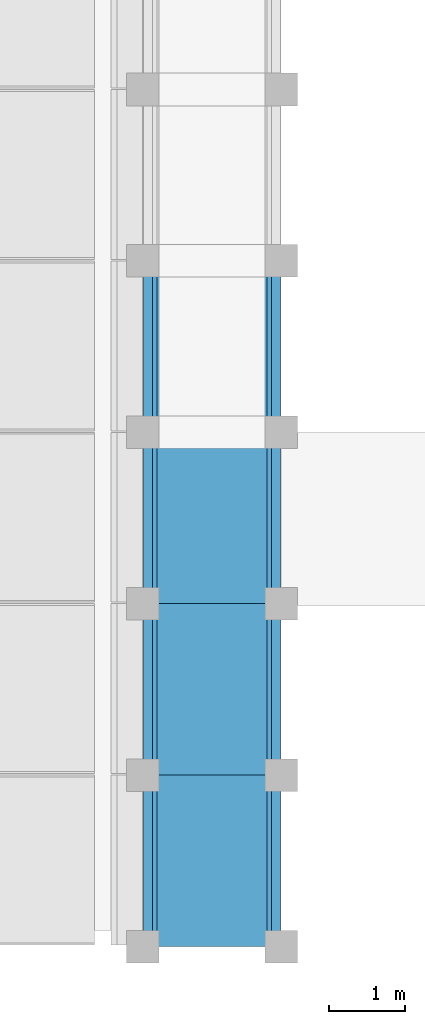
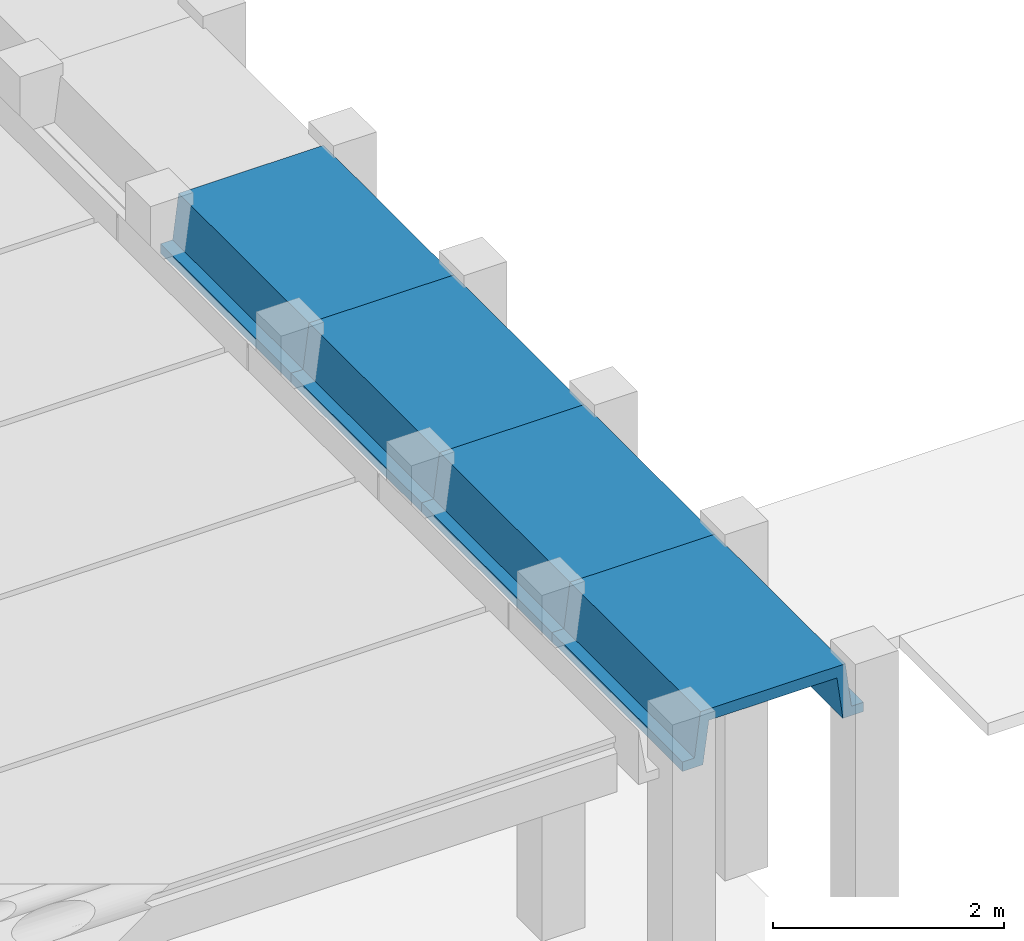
# One storey, part 3 of 18: 4 beams.
"""IFC2X3 building model written with IfcOpenShell, lengths in millimetres."""

from ifc_helpers import new_model, entity, si_unit, converted_unit, derived_unit, direction, frame, origin, place, context, subcontext, project, spatial, polyline, outline, extrude, material, type_object, element, save


model = new_model("IFC2X3")

# Units and contexts
model_context = context("Model", 3, precision=0.01, world=origin(), true_north=direction((6.12303176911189e-17, 1.0)))
body_context = subcontext(model_context, "Body", "Model", "MODEL_VIEW")
ifc_project = project(units=[si_unit("LENGTHUNIT", "METRE", prefix="MILLI"), si_unit("AREAUNIT", "SQUARE_METRE"), si_unit("VOLUMEUNIT", "CUBIC_METRE"), converted_unit("PLANEANGLEUNIT", "DEGREE", entity("IfcRatioMeasure", 0.0174532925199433), si_unit("PLANEANGLEUNIT", "RADIAN"), dimensions=[0, 0, 0, 0, 0, 0, 0]), si_unit("MASSUNIT", "GRAM", prefix="KILO"), derived_unit("MASSDENSITYUNIT", [(si_unit("MASSUNIT", "GRAM", prefix="KILO"), 1), (si_unit("LENGTHUNIT", "METRE"), -3)]), derived_unit("MOMENTOFINERTIAUNIT", [(si_unit("LENGTHUNIT", "METRE"), 4)]), si_unit("TIMEUNIT", "SECOND"), si_unit("FREQUENCYUNIT", "HERTZ"), si_unit("THERMODYNAMICTEMPERATUREUNIT", "DEGREE_CELSIUS"), derived_unit("THERMALTRANSMITTANCEUNIT", [(si_unit("MASSUNIT", "GRAM", prefix="KILO"), 1), (si_unit("THERMODYNAMICTEMPERATUREUNIT", "KELVIN"), -1), (si_unit("TIMEUNIT", "SECOND"), -3)]), derived_unit("VOLUMETRICFLOWRATEUNIT", [(si_unit("LENGTHUNIT", "METRE"), 3), (si_unit("TIMEUNIT", "SECOND"), -1)]), si_unit("ELECTRICCURRENTUNIT", "AMPERE"), si_unit("ELECTRICVOLTAGEUNIT", "VOLT"), si_unit("POWERUNIT", "WATT"), si_unit("FORCEUNIT", "NEWTON", prefix="KILO"), si_unit("ILLUMINANCEUNIT", "LUX"), si_unit("LUMINOUSFLUXUNIT", "LUMEN"), si_unit("LUMINOUSINTENSITYUNIT", "CANDELA"), derived_unit("USERDEFINED", [(si_unit("MASSUNIT", "GRAM", prefix="KILO"), -1), (si_unit("LENGTHUNIT", "METRE"), -2), (si_unit("TIMEUNIT", "SECOND"), 3), (si_unit("LUMINOUSFLUXUNIT", "LUMEN"), 1)]), derived_unit("LINEARVELOCITYUNIT", [(si_unit("LENGTHUNIT", "METRE"), 1), (si_unit("TIMEUNIT", "SECOND"), -1)]), si_unit("PRESSUREUNIT", "PASCAL"), derived_unit("USERDEFINED", [(si_unit("LENGTHUNIT", "METRE"), -2), (si_unit("MASSUNIT", "GRAM", prefix="KILO"), 1), (si_unit("TIMEUNIT", "SECOND"), -2)]), derived_unit("LINEARFORCEUNIT", [(si_unit("MASSUNIT", "GRAM", prefix="KILO"), 1), (si_unit("LENGTHUNIT", "METRE"), 1), (si_unit("TIMEUNIT", "SECOND"), -2), (si_unit("LENGTHUNIT", "METRE"), -1)]), derived_unit("PLANARFORCEUNIT", [(si_unit("MASSUNIT", "GRAM", prefix="KILO"), 1), (si_unit("LENGTHUNIT", "METRE"), 1), (si_unit("TIMEUNIT", "SECOND"), -2), (si_unit("LENGTHUNIT", "METRE"), -2)])], contexts=[model_context])

# Site, building, storey
site_placement = place(None, frame((10627.5135316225, 21939.0796949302, 0.0)))
site = spatial("IfcSite", under=ifc_project, at=site_placement, Name="Default", CompositionType="ELEMENT")
building_placement = place(site_placement, origin())
building = spatial("IfcBuilding", under=site, at=building_placement, CompositionType="ELEMENT")
storey_placement = place(building_placement, frame((0.0, 0.0, 3660.0)))
storey = spatial("IfcBuildingStorey", under=building, at=storey_placement, Name="R+1", CompositionType="ELEMENT", Elevation=3660.0)

# Beams
ifc_material = material(Name="Concrete, Precast Smooth, Light Grey")
beam_type = type_object("IfcBeamType", Name="Poutre petite:Poutre petite", PredefinedType="NOTDEFINED")
for number, where, z_axis, x_axis, name in (
    (1, (667.48646837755, -15159.0796949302, 3530.0), (0.0, 0.0, 1.0), (0.0, 1.0, 0.0), "Poutre petite:Poutre petite"),
    (2, (667.48646837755, -17419.0796949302, 3530.0), (0.0, 0.0, 1.0), (0.0, 1.0, 0.0), "Poutre petite:Poutre petite"),
):
    element("IfcBeam", number, at=place(storey_placement, frame(where, z_axis=z_axis, x_axis=x_axis)), inside=storey, type_object=beam_type, material=ifc_material, Name=name, ObjectType="Poutre petite:Poutre petite", context=body_context, shape_type="SweptSolid", body=[
        extrude(outline(polyline([(103.333217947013, -905.013684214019), (203.333564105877, -905.013684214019), (203.333564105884, -700.013730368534), (-246.666782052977, -640.013684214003), (-246.666782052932, 640.013497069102), (203.333564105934, 700.013543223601), (203.333564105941, 905.014058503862), (103.333217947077, 905.014058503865), (103.333217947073, 785.01349706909), (-366.666782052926, 725.013497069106), (-366.666782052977, -725.013684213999), (103.333217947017, -785.013684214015), (103.333217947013, -905.013684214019)])), frame((0.0, -0.000187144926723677, -366.666782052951), z_axis=(1.0, 0.0, 0.0), x_axis=(0.0, 0.0, -1.0)), (0.0, 0.0, 1.0), 2260.0),
    ])
beam_1_placement = place(storey_placement, frame((667.48646837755, -19679.0796949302, 3530.0), z_axis=(0.0, 0.0, 1.0), x_axis=(0.0, 1.0, 0.0)))
element("IfcBeam", 3, at=beam_1_placement, inside=storey, type_object=beam_type, material=ifc_material, Name="Poutre petite:Poutre petite", ObjectType="Poutre petite:Poutre petite", context=body_context, shape_type="SweptSolid", body=[
    extrude(outline(polyline([(103.333217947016, -905.013684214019), (203.33356410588, -905.013684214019), (203.333564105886, -700.013730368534), (-246.666782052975, -640.013684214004), (-246.666782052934, 640.013497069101), (203.333564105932, 700.013543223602), (203.333564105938, 905.014058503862), (103.333217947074, 905.014058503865), (103.33321794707, 785.01349706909), (-366.666782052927, 725.013497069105), (-366.666782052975, -725.013684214), (103.333217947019, -785.013684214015), (103.333217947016, -905.013684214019)])), frame((0.0, -0.000187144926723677, -366.666782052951), z_axis=(1.0, 0.0, 0.0), x_axis=(0.0, 0.0, -1.0)), (0.0, 0.0, 1.0), 2260.0),
])
beam_2_placement = place(storey_placement, frame((667.48646837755, -21939.0796949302, 3530.0), z_axis=(0.0, 0.0, 1.0), x_axis=(0.0, 1.0, 0.0)))
element("IfcBeam", 4, at=beam_2_placement, inside=storey, type_object=beam_type, material=ifc_material, Name="Poutre petite:Poutre petite", ObjectType="Poutre petite:Poutre petite", context=body_context, shape_type="SweptSolid", body=[
    extrude(outline(polyline([(103.333217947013, -905.013684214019), (203.333564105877, -905.013684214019), (203.333564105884, -700.013730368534), (-246.666782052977, -640.013684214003), (-246.666782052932, 640.013497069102), (203.333564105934, 700.013543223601), (203.333564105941, 905.014058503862), (103.333217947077, 905.014058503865), (103.333217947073, 785.01349706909), (-366.666782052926, 725.013497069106), (-366.666782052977, -725.013684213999), (103.333217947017, -785.013684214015), (103.333217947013, -905.013684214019)])), frame((0.0, -0.000187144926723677, -366.666782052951), z_axis=(1.0, 0.0, 0.0), x_axis=(0.0, 0.0, -1.0)), (0.0, 0.0, 1.0), 2260.0),
])

save(model, "model.ifc")
